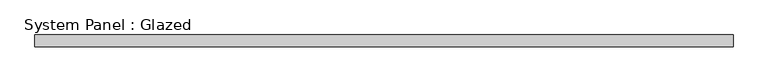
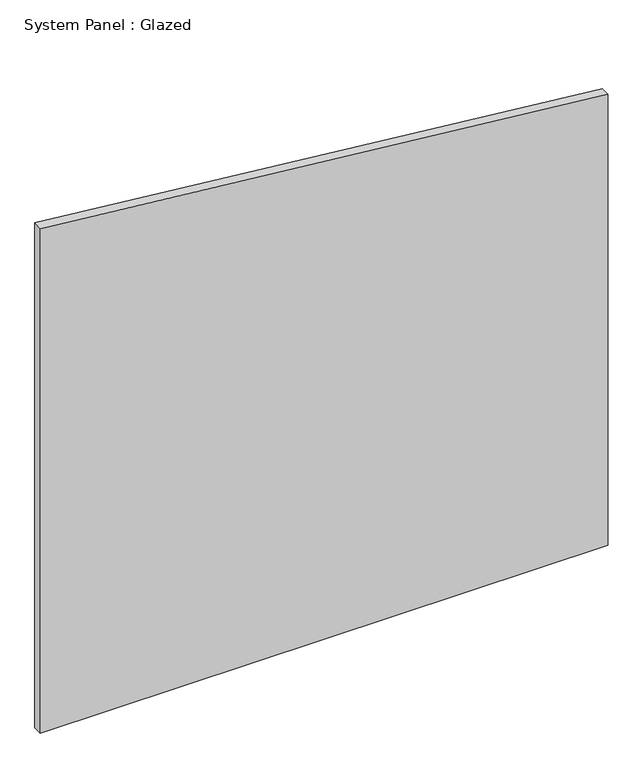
"""IFC4 building model written with IfcOpenShell, lengths in millimetres: plate geometry, System Panel : Glazed."""

from ifc_helpers import new_model, si_unit, frame, origin, place, context, project, spatial, polyline, outline, extrude, source, transform, mapped, element, save


def system_panel_glazed_42289c6d(model_context):
    return source(origin(), model_context, "Body", "SweptSolid", [
        extrude(outline(polyline([(0.0, -735.8695652), (0.0, 735.8695652), (1234.4604663, 735.8695652), (1382.443445, -735.8695652), (0.0, -735.8695652)])), frame((0.0, 24.5, 0.0), z_axis=(0.0, 1.0, 0.0), x_axis=(0.0, 0.0, 1.0)), (0.0, 0.0, 1.0), 25.0),
    ])


if __name__ == "__main__":
    model = new_model("IFC4")
    model_context = context("Model", 3, world=origin())
    ifc_project = project(units=[si_unit("LENGTHUNIT", "METRE", prefix="MILLI")], contexts=[model_context])
    site = spatial("IfcSite", under=ifc_project)
    building = spatial("IfcBuilding", under=site)
    placement = place(None, origin())
    system_panel_glazed_shape = system_panel_glazed_42289c6d(model_context)
    element("IfcPlate", 1, ObjectType="System Panel : Glazed", at=placement, inside=building, context=model_context, shape_type="MappedRepresentation", body=[
        mapped(system_panel_glazed_shape, transform((0.0, 0.0, 0.0), x_axis=(1.0, 0.0, 0.0), y_axis=(0.0, 1.0, 0.0), z_axis=(0.0, 0.0, 1.0))),
    ])
    save(model, "model.ifc")
